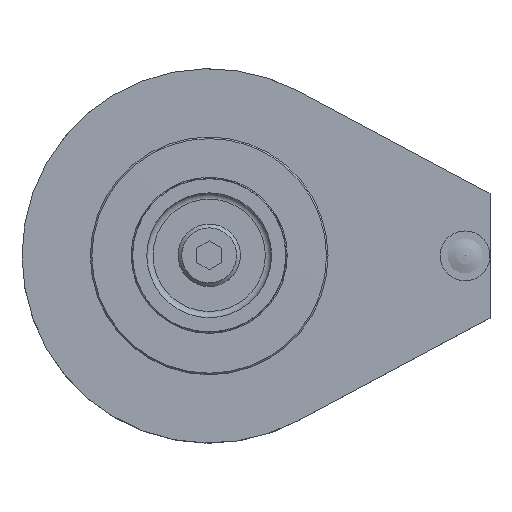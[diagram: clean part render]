
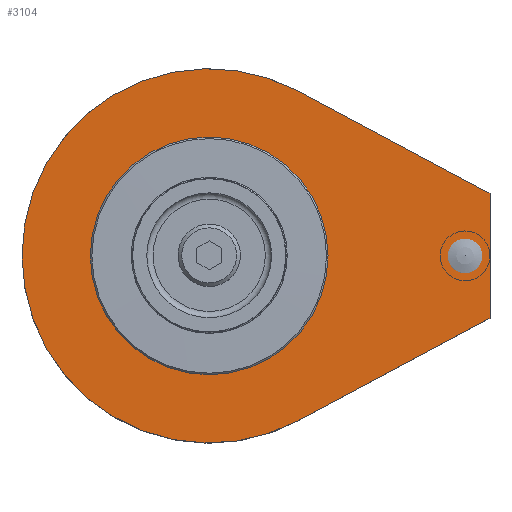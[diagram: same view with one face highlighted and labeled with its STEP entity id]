
A CAD part, top view. The second image highlights one B-rep face of the part: STEP entity #3104.
In plain terms, the highlighted planar face has unit normal (0, 0, 1).
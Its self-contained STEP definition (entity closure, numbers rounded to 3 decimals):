
#3104=ADVANCED_FACE('AC_MATE1',(#3366),#3178,.F.);
#3178=PLANE('',#6939);
#3366=FACE_OUTER_BOUND('',#3738,.T.);
#3738=EDGE_LOOP('',(#5077,#5078,#5079,#5080));
#3911=CIRCLE('',#6938,30.);
#5077=ORIENTED_EDGE('',*,*,#6123,.F.);
#5078=ORIENTED_EDGE('',*,*,#6124,.F.);
#5079=ORIENTED_EDGE('',*,*,#6125,.T.);
#5080=ORIENTED_EDGE('',*,*,#6126,.T.);
#5529=VERTEX_POINT('',#10799);
#5530=VERTEX_POINT('',#10800);
#5531=VERTEX_POINT('',#10802);
#5532=VERTEX_POINT('',#10804);
#6123=EDGE_CURVE('',#5529,#5530,#6327,.T.);
#6124=EDGE_CURVE('',#5531,#5529,#6328,.T.);
#6125=EDGE_CURVE('',#5531,#5532,#6329,.T.);
#6126=EDGE_CURVE('',#5532,#5530,#3911,.T.);
#6327=LINE('',#10798,#6521);
#6328=LINE('',#10801,#6522);
#6329=LINE('',#10803,#6523);
#6521=VECTOR('',#7975,1.);
#6522=VECTOR('',#7976,1.);
#6523=VECTOR('',#7977,1.);
#6938=AXIS2_PLACEMENT_3D('',#10805,#7978,#7979);
#6939=AXIS2_PLACEMENT_3D('',#10806,#7980,#7981);
#7975=DIRECTION('',(0.471,-0.882,0.));
#7976=DIRECTION('',(1.,0.,0.));
#7977=DIRECTION('',(-0.471,-0.882,0.));
#7978=DIRECTION('',(0.,0.,1.));
#7979=DIRECTION('',(1.,0.,0.));
#7980=DIRECTION('',(0.,0.,-1.));
#7981=DIRECTION('',(-1.,0.,0.));
#10798=CARTESIAN_POINT('',(10.,0.,4.763));
#10799=CARTESIAN_POINT('',(10.,0.,4.763));
#10800=CARTESIAN_POINT('',(26.471,-30.882,4.763));
#10801=CARTESIAN_POINT('',(0.,0.,4.763));
#10802=CARTESIAN_POINT('',(-10.,0.,4.763));
#10803=CARTESIAN_POINT('',(-10.,0.,4.763));
#10804=CARTESIAN_POINT('',(-26.471,-30.882,4.763));
#10805=CARTESIAN_POINT('',(0.,-45.,4.763));
#10806=CARTESIAN_POINT('',(0.,-45.,4.763));
